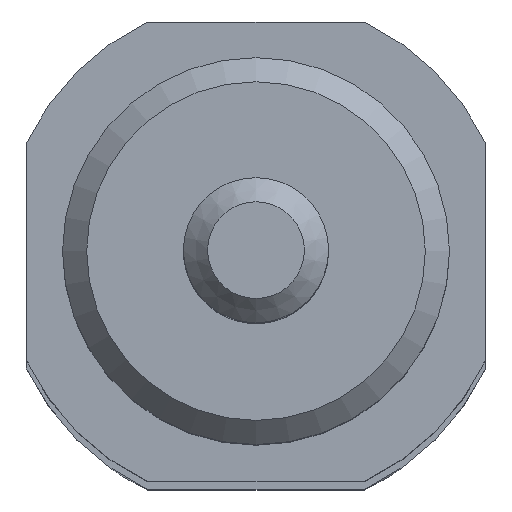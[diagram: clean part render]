
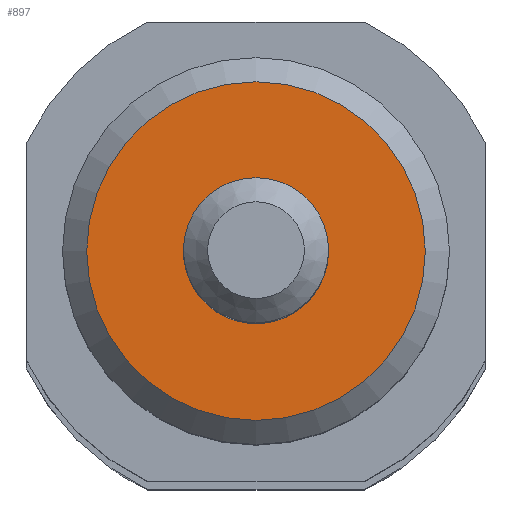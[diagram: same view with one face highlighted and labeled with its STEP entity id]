
A CAD part, top view. The second image highlights one B-rep face of the part: STEP entity #897.
In plain terms, the highlighted planar face has unit normal (0, 0, 1).
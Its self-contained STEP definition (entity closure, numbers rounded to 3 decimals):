
#835=CARTESIAN_POINT('',(7.,0.,233.));
#836=VERTEX_POINT('',#835);
#837=CARTESIAN_POINT('',(0.,0.,233.));
#838=DIRECTION('',(0.0,0.0,-1.0));
#839=DIRECTION('',(-1.0,0.0,0.0));
#840=AXIS2_PLACEMENT_3D('',#837,#838,#839);
#841=CIRCLE('',#840,7.);
#842=EDGE_CURVE('',#836,#836,#841,.T.);
#878=CARTESIAN_POINT('',(0.,0.,233.));
#879=DIRECTION('',(0.0,0.0,-1.0));
#880=DIRECTION('',(-1.0,0.0,0.0));
#881=AXIS2_PLACEMENT_3D('',#878,#879,#880);
#882=PLANE('',#881);
#883=ORIENTED_EDGE('',*,*,#842,.F.);
#884=EDGE_LOOP('',(#883));
#885=FACE_OUTER_BOUND('',#884,.T.);
#886=CARTESIAN_POINT('',(3.,0.,233.));
#887=VERTEX_POINT('',#886);
#888=CARTESIAN_POINT('',(0.,0.,233.));
#889=DIRECTION('',(0.0,0.0,-1.0));
#890=DIRECTION('',(-1.0,0.0,0.0));
#891=AXIS2_PLACEMENT_3D('',#888,#889,#890);
#892=CIRCLE('',#891,3.);
#893=EDGE_CURVE('',#887,#887,#892,.T.);
#894=ORIENTED_EDGE('',*,*,#893,.T.);
#895=EDGE_LOOP('',(#894));
#896=FACE_BOUND('',#895,.T.);
#897=ADVANCED_FACE('',(#885,#896),#882,.F.);
